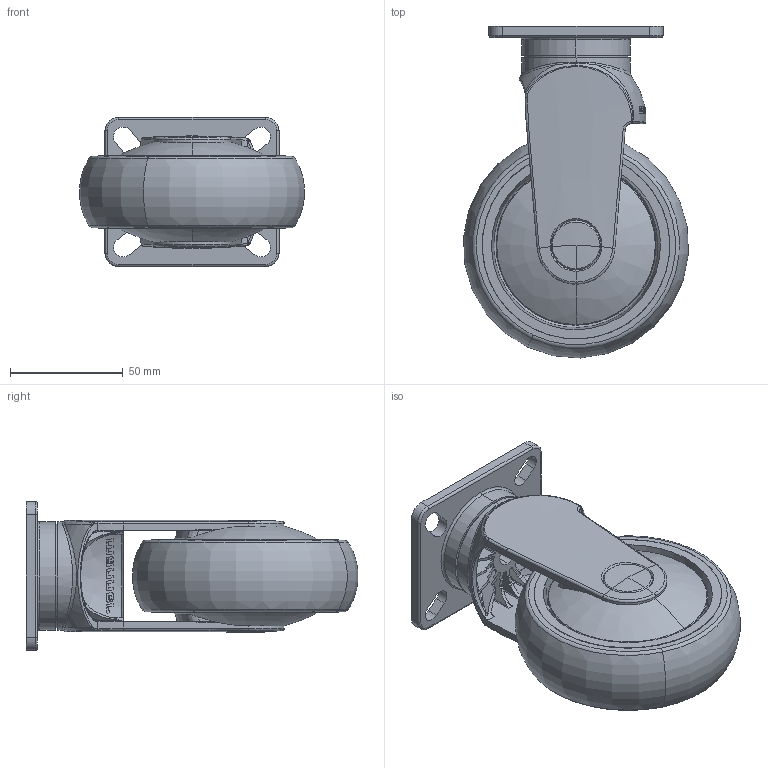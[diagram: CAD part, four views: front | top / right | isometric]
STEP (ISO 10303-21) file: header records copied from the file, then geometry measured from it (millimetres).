
FILE_DESCRIPTION (( 'STEP AP203' ), '1' );
FILE_NAME ('301043_STEP.STEP', '2011-06-22T10:39:55', ( '' ), ( '' ), 'SwSTEP 2.0', 'SolidWorks 2011', '' );
FILE_SCHEMA (( 'CONFIG_CONTROL_DESIGN' ));
Length unit declared in the file: millimetre
Products named in the file (1): 301043_STEP
Bounding box: 99.49 x 146.85 x 66 mm (x, y, z)
Surface area: 81545.6 mm2 (no closed solid volume)
Topology: 0 solids, 6 shells, 573 faces, 2045 edges, 1409 vertices
Faces by surface type: bspline 185, cylinder 185, plane 126, cone 35, torus 24, sphere 18
Entity records: 47436 total; most frequent: CARTESIAN_POINT 32610, ORIENTED_EDGE 3238, DIRECTION 2342, EDGE_CURVE 2025, VERTEX_POINT 1409, B_SPLINE_CURVE_WITH_KNOTS 956, AXIS2_PLACEMENT_3D 899, EDGE_LOOP 601
